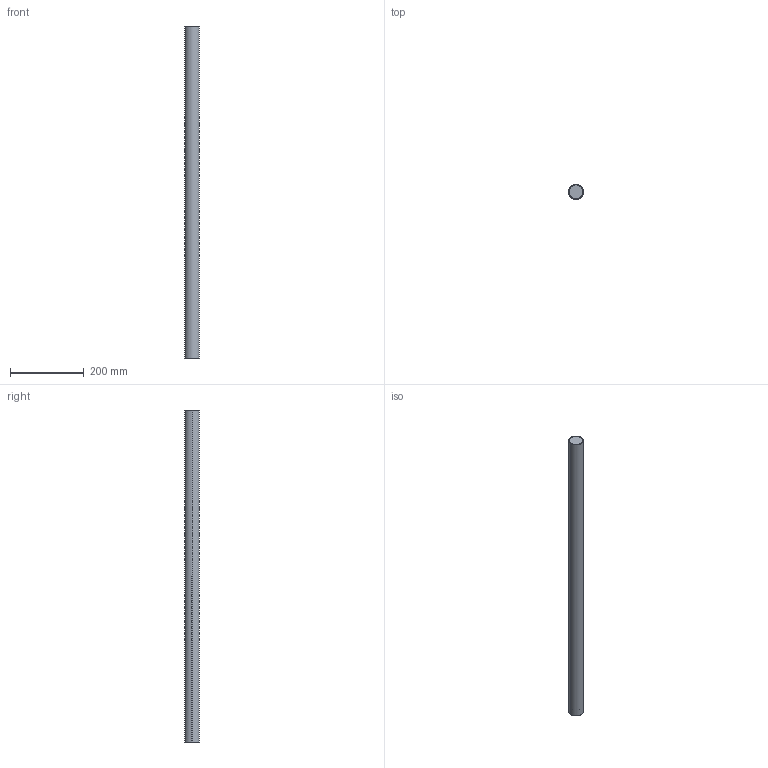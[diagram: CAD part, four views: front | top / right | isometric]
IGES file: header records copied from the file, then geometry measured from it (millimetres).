
Start section: SolidWorks IGES file using analytic representation for surfaces
Global section: file name: C:\Users\anna.bielnik\Desktop\modele 3D tymczasowe\FOURTY\FOURTY plafony\FOURTY L PLAFON\L.IGS; native system: SolidWorks 2023; preprocessor: SolidWorks 2023; author: anna.bielnik; date: 230629.120046; units: millimetre
Bounding box: 40 x 40 x 900 mm (x, y, z)
Surface area: 223642.9 mm2 (no closed solid volume)
Topology: 0 solids, 0 shells, 18 faces, 592 edges, 592 vertices
Faces by surface type: revolution 10, bspline 8
